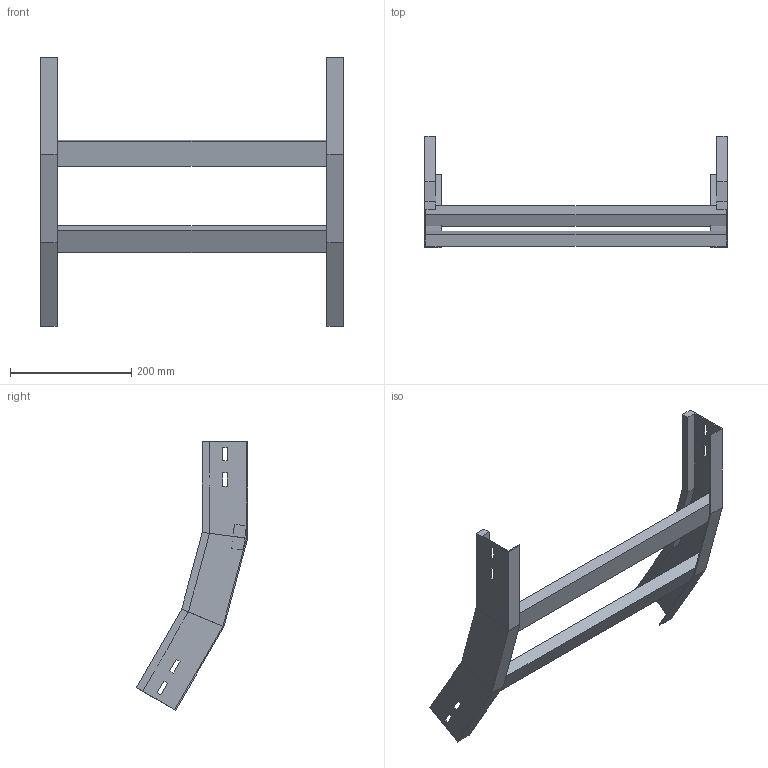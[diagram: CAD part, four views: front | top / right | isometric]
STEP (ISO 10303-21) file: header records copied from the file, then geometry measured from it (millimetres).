
FILE_DESCRIPTION (( 'STEP AP214' ), '1' );
FILE_NAME ('A2X32B5C500XX.step', '2025-03-20T10:02:09', ( '' ), ( '' ), 'SwSTEP 2.0', 'SolidWorks 2023', '' );
FILE_SCHEMA (( 'AUTOMOTIVE_DESIGN' ));
Length unit declared in the file: millimetre
Products named in the file (3): A2X32B5C500XX; LONGH.SALITA_30°_H75_R500; TRAVERSINO_500
Assembly tree (4 placements, depth 2):
  A2X32B5C500XX
    LONGH.SALITA_30°_H75_R500  x2
    TRAVERSINO_500  x2
Bounding box: 500 x 183.88 x 443.86 mm (x, y, z)
Volume: 1149919.5 mm3; surface area: 336872.3 mm2
Topology: 4 solids, 4 shells, 96 faces, 232 edges, 144 vertices
Faces by surface type: plane 96
Entity records: 1472 total; most frequent: CARTESIAN_POINT 243, ORIENTED_EDGE 232, DIRECTION 226, LINE 116, VECTOR 116, EDGE_CURVE 116, VERTEX_POINT 72, EDGE_LOOP 56
